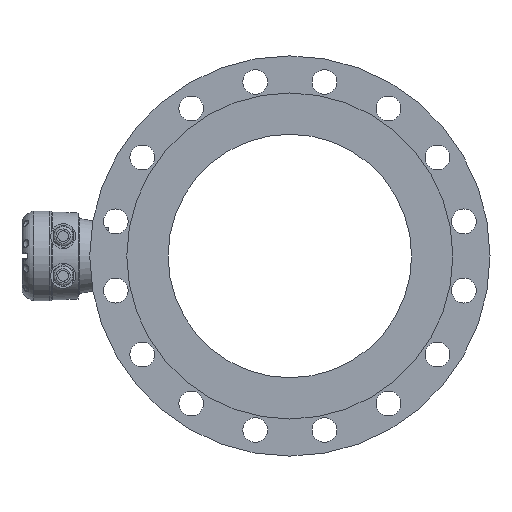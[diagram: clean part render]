
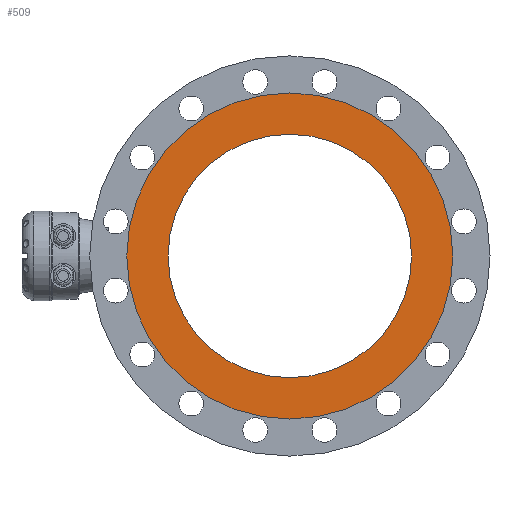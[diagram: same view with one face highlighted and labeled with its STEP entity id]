
A CAD part, left-side view. The second image highlights one B-rep face of the part: STEP entity #509.
In plain terms, the highlighted planar face has unit normal (-1, 0, 0).
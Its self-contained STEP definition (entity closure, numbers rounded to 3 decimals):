
#196 = VERTEX_POINT ( 'NONE', #197 ) ;
#197 = CARTESIAN_POINT ( 'NONE',  ( -244.805, -225.017, -208.043 ) ) ;
#222 = VERTEX_POINT ( 'NONE', #223 ) ;
#223 = CARTESIAN_POINT ( 'NONE',  ( -244.805, -225.017, -158.043 ) ) ;
#509 = ADVANCED_FACE ( 'NONE', ( #7095, #7093 ), #3065, .T. ) ;
#3065 = PLANE ( 'NONE',  #12705 ) ;
#3066 = CARTESIAN_POINT ( 'NONE',  ( -244.805, -225.017, -158.043 ) ) ;
#3109 = DIRECTION ( 'NONE',  ( -1., 0., 0. ) ) ;
#3115 = DIRECTION ( 'NONE',  ( 0., 0., 1. ) ) ;
#5621 = CARTESIAN_POINT ( 'NONE',  ( -244.805, -225.017, -10.543 ) ) ;
#5636 = DIRECTION ( 'NONE',  ( 1., 0., 0. ) ) ;
#5638 = DIRECTION ( 'NONE',  ( 0., 0., -1. ) ) ;
#5767 = CARTESIAN_POINT ( 'NONE',  ( -244.805, -225.017, -10.543 ) ) ;
#5770 = DIRECTION ( 'NONE',  ( 1., 0., 0. ) ) ;
#5771 = DIRECTION ( 'NONE',  ( 0., 0., -1. ) ) ;
#6438 = ORIENTED_EDGE ( 'NONE', *, *, #12509, .F. ) ;
#6439 = ORIENTED_EDGE ( 'NONE', *, *, #12532, .T. ) ;
#7093 = FACE_BOUND ( 'NONE', #9469, .T. ) ;
#7095 = FACE_OUTER_BOUND ( 'NONE', #9721, .T. ) ;
#7492 = CIRCLE ( 'NONE', #13098, 147.5 ) ;
#9469 = EDGE_LOOP ( 'NONE', ( #6439 ) ) ;
#9721 = EDGE_LOOP ( 'NONE', ( #6438 ) ) ;
#12509 = EDGE_CURVE ( 'NONE', #196, #196, #14437, .T. ) ;
#12532 = EDGE_CURVE ( 'NONE', #222, #222, #7492, .T. ) ;
#12705 = AXIS2_PLACEMENT_3D ( 'NONE', #3066, #3109, #3115 ) ;
#13098 = AXIS2_PLACEMENT_3D ( 'NONE', #5767, #5770, #5771 ) ;
#13102 = AXIS2_PLACEMENT_3D ( 'NONE', #5621, #5636, #5638 ) ;
#14437 = CIRCLE ( 'NONE', #13102, 197.5 ) ;
